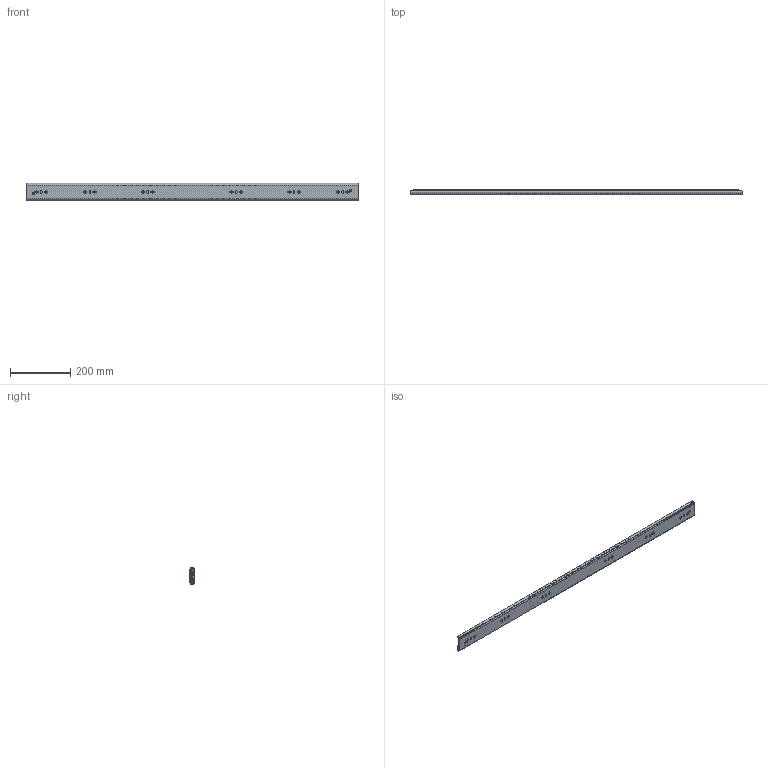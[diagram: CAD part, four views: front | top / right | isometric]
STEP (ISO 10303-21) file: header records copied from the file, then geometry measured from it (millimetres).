
FILE_DESCRIPTION((''),'2;1');
FILE_NAME('1057-C-44_ASM','2023-11-23T',('jishu015'),(''),'PRO/ENGINEER BY PARAMETRIC TECHNOLOGY CORPORATION, 2010280','PRO/ENGINEER BY PARAMETRIC TECHNOLOGY CORPORATION, 2010280','');
FILE_SCHEMA(('CONFIG_CONTROL_DESIGN'));
Products named in the file (19): KP-57-01WEIKE-31___________; MAODING-WAI___________; 1057DAZHUJIA-20GE1___________; 1057ZHUJIADANWEIJIAO123_______; 1057-5-6GANZHU1___________; 1057DAZHUJIA-20GE_12___ASM; 1057-C-20-KE____________ASM; KP-57-01ZHONGGUI-36___; PEIJIAN-22___________; ZHUANJIAO112___________; LIUJIAO-DING11___________; MAODING-P___________; PEIJIAN-ZHONG____________ASM; 1057XIAOZHUJIA___20____________; 1057XIAOZHUJIA-20GE_____________ASM; KP-57-01ZHONGGUI-36____ASM; KP-57-01NEIGUI-241___________; KP-57-01NEIGUI-241____________ASM; 1057-C-44_ASM
Assembly tree (176 placements, depth 4):
  1057-C-44_ASM
    1057-C-20-KE____________ASM
      KP-57-01WEIKE-31___________
      MAODING-WAI___________  x2
      1057DAZHUJIA-20GE_12___ASM
        1057DAZHUJIA-20GE1___________
        1057ZHUJIADANWEIJIAO123_______  x2
        1057-5-6GANZHU1___________  x76
    KP-57-01ZHONGGUI-36____ASM
      KP-57-01ZHONGGUI-36___
      PEIJIAN-ZHONG____________ASM  x2
        PEIJIAN-22___________
        ZHUANJIAO112___________
        LIUJIAO-DING11___________
        MAODING-P___________
      MAODING-WAI___________  x2
      1057XIAOZHUJIA-20GE_____________ASM
        1057XIAOZHUJIA___20____________
        1057-5-6GANZHU1___________  x76
        1057ZHUJIADANWEIJIAO123_______  x2
    KP-57-01NEIGUI-241____________ASM
      KP-57-01NEIGUI-241___________
Bounding box: 1100 x 19.8 x 57.67 mm (x, y, z)
Volume: 477484.8 mm3; surface area: 558498.5 mm2
Topology: 173 solids, 173 shells, 4434 faces, 12334 edges, 7632 vertices
Faces by surface type: plane 1978, cylinder 1814, sphere 310, bspline 130, cone 114, torus 88
Entity records: 127270 total; most frequent: CARTESIAN_POINT 26667, DIRECTION 21400, ORIENTED_EDGE 20866, EDGE_CURVE 10433, AXIS2_PLACEMENT_3D 7392, VERTEX_POINT 6712, VECTOR 6616, LINE 6616
